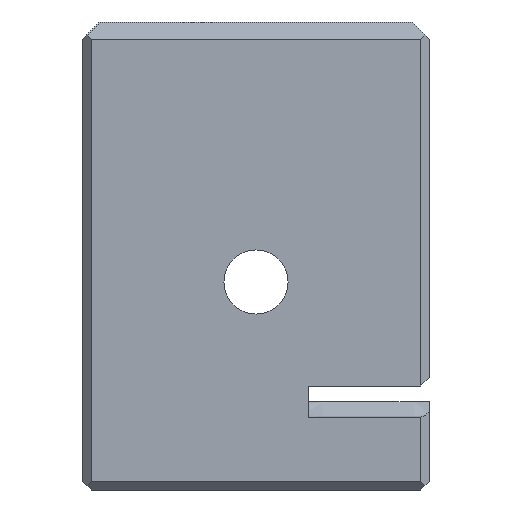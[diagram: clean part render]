
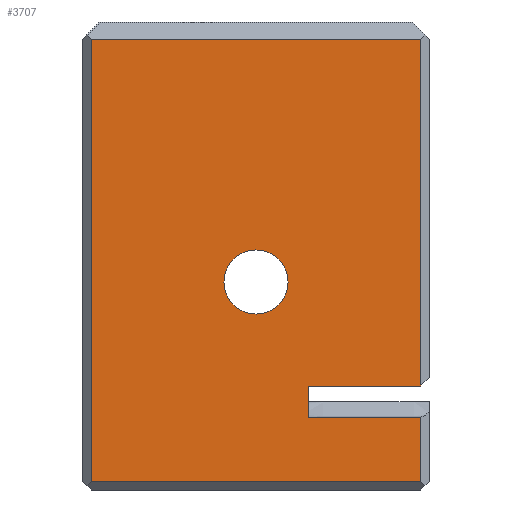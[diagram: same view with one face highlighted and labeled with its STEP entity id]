
A CAD part, front view. The second image highlights one B-rep face of the part: STEP entity #3707.
In plain terms, the highlighted planar face has unit normal (0, -1, 0).
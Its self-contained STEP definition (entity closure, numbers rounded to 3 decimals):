
#57=CARTESIAN_POINT('Line Origine',(6.25,5.,-21.)) ;
#61=CARTESIAN_POINT('Vertex',(3.,5.,-21.)) ;
#63=CARTESIAN_POINT('Vertex',(9.5,5.,-21.)) ;
#2191=CARTESIAN_POINT('Vertex',(3.,5.,-22.8)) ;
#2199=CARTESIAN_POINT('Line Origine',(3.,5.,-21.9)) ;
#2242=CARTESIAN_POINT('Vertex',(1.85,5.,-15.)) ;
#2245=CARTESIAN_POINT('Axis2P3D Location',(0.,5.,-15.)) ;
#2249=CARTESIAN_POINT('Vertex',(-1.85,5.,-15.)) ;
#2303=CARTESIAN_POINT('Axis2P3D Location',(0.,5.,-15.)) ;
#3376=CARTESIAN_POINT('Vertex',(9.5,5.,-22.8)) ;
#3402=CARTESIAN_POINT('Line Origine',(6.5,5.,-22.8)) ;
#3530=CARTESIAN_POINT('Line Origine',(9.5,5.,-13.5)) ;
#3534=CARTESIAN_POINT('Vertex',(9.5,5.,-26.5)) ;
#3554=CARTESIAN_POINT('Line Origine',(0.,5.,-26.5)) ;
#3558=CARTESIAN_POINT('Vertex',(-9.5,5.,-26.5)) ;
#3639=CARTESIAN_POINT('Line Origine',(9.5,5.,-13.5)) ;
#3643=CARTESIAN_POINT('Vertex',(9.5,5.,-1.)) ;
#3666=CARTESIAN_POINT('Vertex',(-9.5,5.,-1.)) ;
#3669=CARTESIAN_POINT('Line Origine',(-9.5,5.,-13.5)) ;
#3683=CARTESIAN_POINT('Axis2P3D Location',(0.,5.,2.262)) ;
#3688=CARTESIAN_POINT('Line Origine',(0.,5.,-1.)) ;
#58=DIRECTION('Vector Direction',(1.,0.,0.)) ;
#2200=DIRECTION('Vector Direction',(0.,0.,-1.)) ;
#2246=DIRECTION('Axis2P3D Direction',(0.,1.,0.)) ;
#2304=DIRECTION('Axis2P3D Direction',(0.,1.,0.)) ;
#3403=DIRECTION('Vector Direction',(-1.,0.,0.)) ;
#3531=DIRECTION('Vector Direction',(0.,0.,1.)) ;
#3555=DIRECTION('Vector Direction',(-1.,0.,0.)) ;
#3640=DIRECTION('Vector Direction',(0.,0.,1.)) ;
#3670=DIRECTION('Vector Direction',(0.,0.,1.)) ;
#3684=DIRECTION('Axis2P3D Direction',(0.,1.,0.)) ;
#3685=DIRECTION('Axis2P3D XDirection',(0.,0.,-1.)) ;
#3689=DIRECTION('Vector Direction',(-1.,0.,0.)) ;
#2247=AXIS2_PLACEMENT_3D('Circle Axis2P3D',#2245,#2246,$) ;
#2305=AXIS2_PLACEMENT_3D('Circle Axis2P3D',#2303,#2304,$) ;
#3686=AXIS2_PLACEMENT_3D('Plane Axis2P3D',#3683,#3684,#3685) ;
#3694=ORIENTED_EDGE('',*,*,#3692,.T.) ;
#3695=ORIENTED_EDGE('',*,*,#3673,.T.) ;
#3696=ORIENTED_EDGE('',*,*,#3560,.F.) ;
#3697=ORIENTED_EDGE('',*,*,#3536,.F.) ;
#3698=ORIENTED_EDGE('',*,*,#3406,.T.) ;
#3699=ORIENTED_EDGE('',*,*,#2203,.F.) ;
#3700=ORIENTED_EDGE('',*,*,#65,.T.) ;
#3701=ORIENTED_EDGE('',*,*,#3645,.F.) ;
#3704=ORIENTED_EDGE('',*,*,#2307,.T.) ;
#3705=ORIENTED_EDGE('',*,*,#2251,.T.) ;
#3706=FACE_BOUND('',#3703,.T.) ;
#59=VECTOR('Line Direction',#58,1.) ;
#2201=VECTOR('Line Direction',#2200,1.) ;
#3404=VECTOR('Line Direction',#3403,1.) ;
#3532=VECTOR('Line Direction',#3531,1.) ;
#3556=VECTOR('Line Direction',#3555,1.) ;
#3641=VECTOR('Line Direction',#3640,1.) ;
#3671=VECTOR('Line Direction',#3670,1.) ;
#3690=VECTOR('Line Direction',#3689,1.) ;
#3707=ADVANCED_FACE('PartBody',(#3702,#3706),#3687,.F.) ;
#2248=CIRCLE('generated circle',#2247,1.85) ;
#2306=CIRCLE('generated circle',#2305,1.85) ;
#65=EDGE_CURVE('',#62,#64,#60,.T.) ;
#2203=EDGE_CURVE('',#62,#2192,#2202,.T.) ;
#2251=EDGE_CURVE('',#2250,#2243,#2248,.T.) ;
#2307=EDGE_CURVE('',#2243,#2250,#2306,.T.) ;
#3406=EDGE_CURVE('',#3377,#2192,#3405,.T.) ;
#3536=EDGE_CURVE('',#3377,#3535,#3533,.F.) ;
#3560=EDGE_CURVE('',#3535,#3559,#3557,.T.) ;
#3645=EDGE_CURVE('',#3644,#64,#3642,.F.) ;
#3673=EDGE_CURVE('',#3667,#3559,#3672,.F.) ;
#3692=EDGE_CURVE('',#3644,#3667,#3691,.T.) ;
#3693=EDGE_LOOP('',(#3694,#3695,#3696,#3697,#3698,#3699,#3700,#3701)) ;
#3703=EDGE_LOOP('',(#3704,#3705)) ;
#3702=FACE_OUTER_BOUND('',#3693,.T.) ;
#60=LINE('Line',#57,#59) ;
#2202=LINE('Line',#2199,#2201) ;
#3405=LINE('Line',#3402,#3404) ;
#3533=LINE('Line',#3530,#3532) ;
#3557=LINE('Line',#3554,#3556) ;
#3642=LINE('Line',#3639,#3641) ;
#3672=LINE('Line',#3669,#3671) ;
#3691=LINE('Line',#3688,#3690) ;
#3687=PLANE('Plane',#3686) ;
#62=VERTEX_POINT('',#61) ;
#64=VERTEX_POINT('',#63) ;
#2192=VERTEX_POINT('',#2191) ;
#2243=VERTEX_POINT('',#2242) ;
#2250=VERTEX_POINT('',#2249) ;
#3377=VERTEX_POINT('',#3376) ;
#3535=VERTEX_POINT('',#3534) ;
#3559=VERTEX_POINT('',#3558) ;
#3644=VERTEX_POINT('',#3643) ;
#3667=VERTEX_POINT('',#3666) ;
